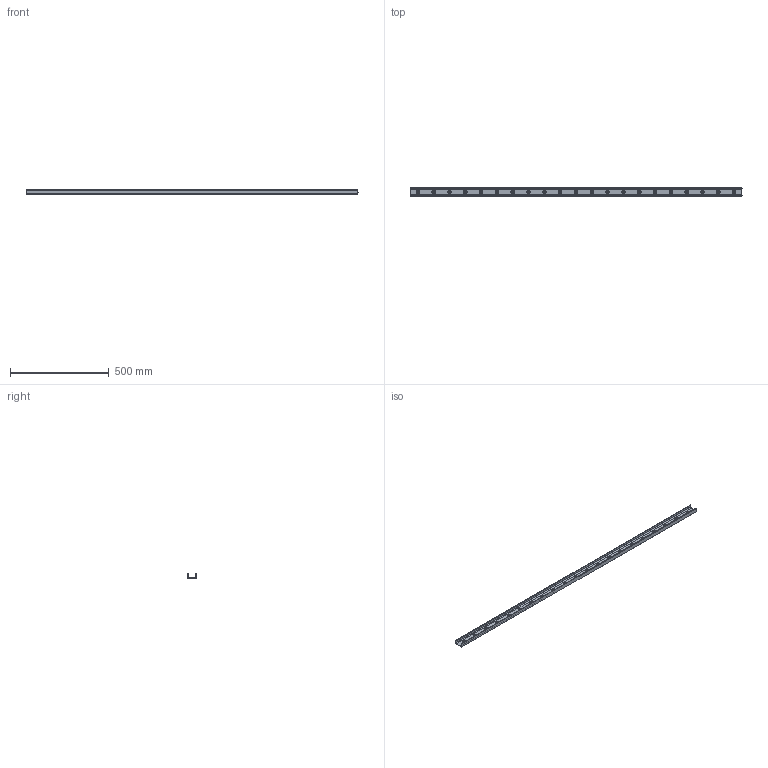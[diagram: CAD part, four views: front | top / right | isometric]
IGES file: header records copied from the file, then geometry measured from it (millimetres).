
Start section: SolidWorks IGES file using analytic representation for surfaces
Global section: file name: C:\Users\IanO\Desktop\43\L1943.ULC43_v2_20180121_IGES\L1943.ULC43-1680.igs; native system: SolidWorks 2017; preprocessor: SolidWorks 2017; author: IanO; date: 190121.084811; units: millimetre
Bounding box: 1680 x 43 x 21 mm (x, y, z)
Surface area: 263741.1 mm2 (no closed solid volume)
Topology: 0 solids, 0 shells, 131 faces, 3318 edges, 3318 vertices
Faces by surface type: revolution 97, bspline 34
